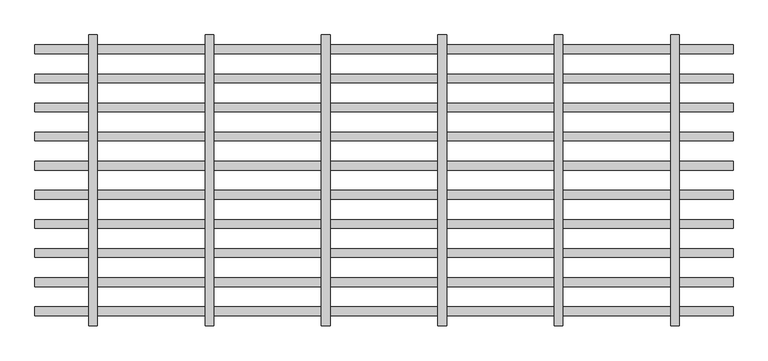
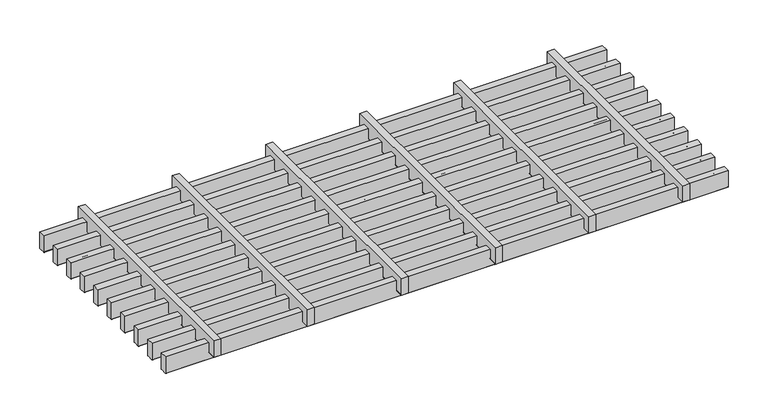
"""IFC4 building model written with IfcOpenShell, lengths in millimetres: proxy geometry, durlum_STARLAM_panel : durlum_STARLAM_15_width_cut."""

from ifc_helpers import new_model, si_unit, point, frame, frame_2d, origin, place, context, project, spatial, polyline, circle_curve, trimmed, segment, composite_curve, outline, extrude, source, transform, mapped, element, save


def generic_models_7333d896(model_context):
    return source(origin(), model_context, "Body", "SweptSolid", [
        extrude(outline(composite_curve([segment(polyline([(-182.5, 37.0), (-167.5, 37.0), (-167.5, 0.5)]), True, "CONTINUOUS"), segment(trimmed(circle_curve(frame_2d((-168.0, 0.5)), 0.5), [point((-167.5, 0.5))], [point((-168.0, 0.0))], False, "CARTESIAN"), True, "CONTINUOUS"), segment(polyline([(-168.0, 0.0), (-182.0, 0.0)]), True, "CONTINUOUS"), segment(trimmed(circle_curve(frame_2d((-182.0, 0.5)), 0.5), [point((-182.0, 0.0))], [point((-182.5, 0.5))], False, "CARTESIAN"), True, "CONTINUOUS"), segment(polyline([(-182.5, 0.5), (-182.5, 37.0)]), True, "CONTINUOUS")], self_intersect=False)), frame((-599.75, 0.0, 0.0), z_axis=(1.0, 0.0, 0.0), x_axis=(0.0, 1.0, 0.0)), (0.0, 0.0, 1.0), 1199.5),
        extrude(outline(composite_curve([segment(polyline([(-132.5, 37.0), (-117.5, 37.0), (-117.5, 0.5)]), True, "CONTINUOUS"), segment(trimmed(circle_curve(frame_2d((-118.0, 0.5)), 0.5), [point((-117.5, 0.5))], [point((-118.0, 0.0))], False, "CARTESIAN"), True, "CONTINUOUS"), segment(polyline([(-118.0, 0.0), (-132.0, 0.0)]), True, "CONTINUOUS"), segment(trimmed(circle_curve(frame_2d((-132.0, 0.5)), 0.5), [point((-132.0, 0.0))], [point((-132.5, 0.5))], False, "CARTESIAN"), True, "CONTINUOUS"), segment(polyline([(-132.5, 0.5), (-132.5, 37.0)]), True, "CONTINUOUS")], self_intersect=False)), frame((-599.75, 0.0, 0.0), z_axis=(1.0, 0.0, 0.0), x_axis=(0.0, 1.0, 0.0)), (0.0, 0.0, 1.0), 1199.5),
        extrude(outline(composite_curve([segment(polyline([(51.0, 307.5), (51.0, 292.5), (14.5, 292.5)]), True, "CONTINUOUS"), segment(trimmed(circle_curve(frame_2d((14.5, 293.0)), 0.5), [point((14.5, 292.5))], [point((14.0, 293.0))], False, "CARTESIAN"), True, "CONTINUOUS"), segment(polyline([(14.0, 293.0), (14.0, 307.0)]), True, "CONTINUOUS"), segment(trimmed(circle_curve(frame_2d((14.5, 307.0)), 0.5), [point((14.0, 307.0))], [point((14.5, 307.5))], False, "CARTESIAN"), True, "CONTINUOUS"), segment(polyline([(14.5, 307.5), (51.0, 307.5)]), True, "CONTINUOUS")], self_intersect=False)), frame((0.0, -249.75, 0.0), z_axis=(0.0, 1.0, 0.0), x_axis=(0.0, 0.0, 1.0)), (0.0, 0.0, 1.0), 499.5),
        extrude(outline(composite_curve([segment(polyline([(51.0, 107.5), (51.0, 92.5), (14.5, 92.5)]), True, "CONTINUOUS"), segment(trimmed(circle_curve(frame_2d((14.5, 93.0)), 0.5), [point((14.5, 92.5))], [point((14.0, 93.0))], False, "CARTESIAN"), True, "CONTINUOUS"), segment(polyline([(14.0, 93.0), (14.0, 107.0)]), True, "CONTINUOUS"), segment(trimmed(circle_curve(frame_2d((14.5, 107.0)), 0.5), [point((14.0, 107.0))], [point((14.5, 107.5))], False, "CARTESIAN"), True, "CONTINUOUS"), segment(polyline([(14.5, 107.5), (51.0, 107.5)]), True, "CONTINUOUS")], self_intersect=False)), frame((0.0, -249.75, 0.0), z_axis=(0.0, 1.0, 0.0), x_axis=(0.0, 0.0, 1.0)), (0.0, 0.0, 1.0), 499.5),
        extrude(outline(composite_curve([segment(polyline([(51.0, -92.5), (51.0, -107.5), (14.5, -107.5)]), True, "CONTINUOUS"), segment(trimmed(circle_curve(frame_2d((14.5, -107.0)), 0.5), [point((14.5, -107.5))], [point((14.0, -107.0))], False, "CARTESIAN"), True, "CONTINUOUS"), segment(polyline([(14.0, -107.0), (14.0, -93.0)]), True, "CONTINUOUS"), segment(trimmed(circle_curve(frame_2d((14.5, -93.0)), 0.5), [point((14.0, -93.0))], [point((14.5, -92.5))], False, "CARTESIAN"), True, "CONTINUOUS"), segment(polyline([(14.5, -92.5), (51.0, -92.5)]), True, "CONTINUOUS")], self_intersect=False)), frame((0.0, -249.75, 0.0), z_axis=(0.0, 1.0, 0.0), x_axis=(0.0, 0.0, 1.0)), (0.0, 0.0, 1.0), 499.5),
        extrude(outline(composite_curve([segment(polyline([(51.0, -292.5), (51.0, -307.5), (14.5, -307.5)]), True, "CONTINUOUS"), segment(trimmed(circle_curve(frame_2d((14.5, -307.0)), 0.5), [point((14.5, -307.5))], [point((14.0, -307.0))], False, "CARTESIAN"), True, "CONTINUOUS"), segment(polyline([(14.0, -307.0), (14.0, -293.0)]), True, "CONTINUOUS"), segment(trimmed(circle_curve(frame_2d((14.5, -293.0)), 0.5), [point((14.0, -293.0))], [point((14.5, -292.5))], False, "CARTESIAN"), True, "CONTINUOUS"), segment(polyline([(14.5, -292.5), (51.0, -292.5)]), True, "CONTINUOUS")], self_intersect=False)), frame((0.0, -249.75, 0.0), z_axis=(0.0, 1.0, 0.0), x_axis=(0.0, 0.0, 1.0)), (0.0, 0.0, 1.0), 499.5),
        extrude(outline(composite_curve([segment(polyline([(-82.5, 37.0), (-67.5, 37.0), (-67.5, 0.5)]), True, "CONTINUOUS"), segment(trimmed(circle_curve(frame_2d((-68.0, 0.5)), 0.5), [point((-67.5, 0.5))], [point((-68.0, 0.0))], False, "CARTESIAN"), True, "CONTINUOUS"), segment(polyline([(-68.0, 0.0), (-82.0, 0.0)]), True, "CONTINUOUS"), segment(trimmed(circle_curve(frame_2d((-82.0, 0.5)), 0.5), [point((-82.0, 0.0))], [point((-82.5, 0.5))], False, "CARTESIAN"), True, "CONTINUOUS"), segment(polyline([(-82.5, 0.5), (-82.5, 37.0)]), True, "CONTINUOUS")], self_intersect=False)), frame((-599.75, 0.0, 0.0), z_axis=(1.0, 0.0, 0.0), x_axis=(0.0, 1.0, 0.0)), (0.0, 0.0, 1.0), 1199.5),
        extrude(outline(composite_curve([segment(polyline([(-32.5, 37.0), (-17.5, 37.0), (-17.5, 0.5)]), True, "CONTINUOUS"), segment(trimmed(circle_curve(frame_2d((-18.0, 0.5)), 0.5), [point((-17.5, 0.5))], [point((-18.0, 0.0))], False, "CARTESIAN"), True, "CONTINUOUS"), segment(polyline([(-18.0, 0.0), (-32.0, 0.0)]), True, "CONTINUOUS"), segment(trimmed(circle_curve(frame_2d((-32.0, 0.5)), 0.5), [point((-32.0, 0.0))], [point((-32.5, 0.5))], False, "CARTESIAN"), True, "CONTINUOUS"), segment(polyline([(-32.5, 0.5), (-32.5, 37.0)]), True, "CONTINUOUS")], self_intersect=False)), frame((-599.75, 0.0, 0.0), z_axis=(1.0, 0.0, 0.0), x_axis=(0.0, 1.0, 0.0)), (0.0, 0.0, 1.0), 1199.5),
        extrude(outline(composite_curve([segment(polyline([(17.5, 37.0), (32.5, 37.0), (32.5, 0.5)]), True, "CONTINUOUS"), segment(trimmed(circle_curve(frame_2d((32.0, 0.5)), 0.5), [point((32.5, 0.5))], [point((32.0, 0.0))], False, "CARTESIAN"), True, "CONTINUOUS"), segment(polyline([(32.0, 0.0), (18.0, 0.0)]), True, "CONTINUOUS"), segment(trimmed(circle_curve(frame_2d((18.0, 0.5)), 0.5), [point((18.0, 0.0))], [point((17.5, 0.5))], False, "CARTESIAN"), True, "CONTINUOUS"), segment(polyline([(17.5, 0.5), (17.5, 37.0)]), True, "CONTINUOUS")], self_intersect=False)), frame((-599.75, 0.0, 0.0), z_axis=(1.0, 0.0, 0.0), x_axis=(0.0, 1.0, 0.0)), (0.0, 0.0, 1.0), 1199.5),
        extrude(outline(composite_curve([segment(polyline([(67.5, 37.0), (82.5, 37.0), (82.5, 0.5)]), True, "CONTINUOUS"), segment(trimmed(circle_curve(frame_2d((82.0, 0.5)), 0.5), [point((82.5, 0.5))], [point((82.0, 0.0))], False, "CARTESIAN"), True, "CONTINUOUS"), segment(polyline([(82.0, 0.0), (68.0, 0.0)]), True, "CONTINUOUS"), segment(trimmed(circle_curve(frame_2d((68.0, 0.5)), 0.5), [point((68.0, 0.0))], [point((67.5, 0.5))], False, "CARTESIAN"), True, "CONTINUOUS"), segment(polyline([(67.5, 0.5), (67.5, 37.0)]), True, "CONTINUOUS")], self_intersect=False)), frame((-599.75, 0.0, 0.0), z_axis=(1.0, 0.0, 0.0), x_axis=(0.0, 1.0, 0.0)), (0.0, 0.0, 1.0), 1199.5),
        extrude(outline(composite_curve([segment(polyline([(117.5, 37.0), (132.5, 37.0), (132.5, 0.5)]), True, "CONTINUOUS"), segment(trimmed(circle_curve(frame_2d((132.0, 0.5)), 0.5), [point((132.5, 0.5))], [point((132.0, 0.0))], False, "CARTESIAN"), True, "CONTINUOUS"), segment(polyline([(132.0, 0.0), (118.0, 0.0)]), True, "CONTINUOUS"), segment(trimmed(circle_curve(frame_2d((118.0, 0.5)), 0.5), [point((118.0, 0.0))], [point((117.5, 0.5))], False, "CARTESIAN"), True, "CONTINUOUS"), segment(polyline([(117.5, 0.5), (117.5, 37.0)]), True, "CONTINUOUS")], self_intersect=False)), frame((-599.75, 0.0, 0.0), z_axis=(1.0, 0.0, 0.0), x_axis=(0.0, 1.0, 0.0)), (0.0, 0.0, 1.0), 1199.5),
        extrude(outline(composite_curve([segment(polyline([(167.5, 37.0), (182.5, 37.0), (182.5, 0.5)]), True, "CONTINUOUS"), segment(trimmed(circle_curve(frame_2d((182.0, 0.5)), 0.5), [point((182.5, 0.5))], [point((182.0, 0.0))], False, "CARTESIAN"), True, "CONTINUOUS"), segment(polyline([(182.0, 0.0), (168.0, 0.0)]), True, "CONTINUOUS"), segment(trimmed(circle_curve(frame_2d((168.0, 0.5)), 0.5), [point((168.0, 0.0))], [point((167.5, 0.5))], False, "CARTESIAN"), True, "CONTINUOUS"), segment(polyline([(167.5, 0.5), (167.5, 37.0)]), True, "CONTINUOUS")], self_intersect=False)), frame((-599.75, 0.0, 0.0), z_axis=(1.0, 0.0, 0.0), x_axis=(0.0, 1.0, 0.0)), (0.0, 0.0, 1.0), 1199.5),
        extrude(outline(composite_curve([segment(polyline([(51.0, 507.5), (51.0, 492.5), (14.5, 492.5)]), True, "CONTINUOUS"), segment(trimmed(circle_curve(frame_2d((14.5, 493.0)), 0.5), [point((14.5, 492.5))], [point((14.0, 493.0))], False, "CARTESIAN"), True, "CONTINUOUS"), segment(polyline([(14.0, 493.0), (14.0, 507.0)]), True, "CONTINUOUS"), segment(trimmed(circle_curve(frame_2d((14.5, 507.0)), 0.5), [point((14.0, 507.0))], [point((14.5, 507.5))], False, "CARTESIAN"), True, "CONTINUOUS"), segment(polyline([(14.5, 507.5), (51.0, 507.5)]), True, "CONTINUOUS")], self_intersect=False)), frame((0.0, -249.75, 0.0), z_axis=(0.0, 1.0, 0.0), x_axis=(0.0, 0.0, 1.0)), (0.0, 0.0, 1.0), 499.5),
        extrude(outline(composite_curve([segment(polyline([(51.0, -492.5), (51.0, -507.5), (14.5, -507.5)]), True, "CONTINUOUS"), segment(trimmed(circle_curve(frame_2d((14.5, -507.0)), 0.5), [point((14.5, -507.5))], [point((14.0, -507.0))], False, "CARTESIAN"), True, "CONTINUOUS"), segment(polyline([(14.0, -507.0), (14.0, -493.0)]), True, "CONTINUOUS"), segment(trimmed(circle_curve(frame_2d((14.5, -493.0)), 0.5), [point((14.0, -493.0))], [point((14.5, -492.5))], False, "CARTESIAN"), True, "CONTINUOUS"), segment(polyline([(14.5, -492.5), (51.0, -492.5)]), True, "CONTINUOUS")], self_intersect=False)), frame((0.0, -249.75, 0.0), z_axis=(0.0, 1.0, 0.0), x_axis=(0.0, 0.0, 1.0)), (0.0, 0.0, 1.0), 499.5),
        extrude(outline(composite_curve([segment(polyline([(-232.5, 37.0), (-217.5, 37.0), (-217.5, 0.5)]), True, "CONTINUOUS"), segment(trimmed(circle_curve(frame_2d((-218.0, 0.5)), 0.5), [point((-217.5, 0.5))], [point((-218.0, 0.0))], False, "CARTESIAN"), True, "CONTINUOUS"), segment(polyline([(-218.0, 0.0), (-232.0, 0.0)]), True, "CONTINUOUS"), segment(trimmed(circle_curve(frame_2d((-232.0, 0.5)), 0.5), [point((-232.0, 0.0))], [point((-232.5, 0.5))], False, "CARTESIAN"), True, "CONTINUOUS"), segment(polyline([(-232.5, 0.5), (-232.5, 37.0)]), True, "CONTINUOUS")], self_intersect=False)), frame((-599.75, 0.0, 0.0), z_axis=(1.0, 0.0, 0.0), x_axis=(0.0, 1.0, 0.0)), (0.0, 0.0, 1.0), 1199.5),
        extrude(outline(composite_curve([segment(polyline([(217.5, 37.0), (232.5, 37.0), (232.5, 0.5)]), True, "CONTINUOUS"), segment(trimmed(circle_curve(frame_2d((232.0, 0.5)), 0.5), [point((232.5, 0.5))], [point((232.0, 0.0))], False, "CARTESIAN"), True, "CONTINUOUS"), segment(polyline([(232.0, 0.0), (218.0, 0.0)]), True, "CONTINUOUS"), segment(trimmed(circle_curve(frame_2d((218.0, 0.5)), 0.5), [point((218.0, 0.0))], [point((217.5, 0.5))], False, "CARTESIAN"), True, "CONTINUOUS"), segment(polyline([(217.5, 0.5), (217.5, 37.0)]), True, "CONTINUOUS")], self_intersect=False)), frame((-599.75, 0.0, 0.0), z_axis=(1.0, 0.0, 0.0), x_axis=(0.0, 1.0, 0.0)), (0.0, 0.0, 1.0), 1199.5),
    ])


if __name__ == "__main__":
    model = new_model("IFC4")
    model_context = context("Model", 3, world=origin())
    ifc_project = project(units=[si_unit("LENGTHUNIT", "METRE", prefix="MILLI")], contexts=[model_context])
    site = spatial("IfcSite", under=ifc_project)
    building = spatial("IfcBuilding", under=site)
    placement = place(None, origin())
    generic_models_shape = generic_models_7333d896(model_context)
    element("IfcBuildingElementProxy", 1, Name="durlum_STARLAM_panel : durlum_STARLAM_15_width_cut", ObjectType="durlum_STARLAM_panel : durlum_STARLAM_15_width_cut", at=placement, inside=building, context=model_context, shape_type="MappedRepresentation", body=[
        mapped(generic_models_shape, transform((0.0, 0.0, 0.0), x_axis=(1.0, 0.0, 0.0), y_axis=(0.0, 1.0, 0.0), z_axis=(0.0, 0.0, 1.0))),
    ])
    save(model, "model.ifc")
